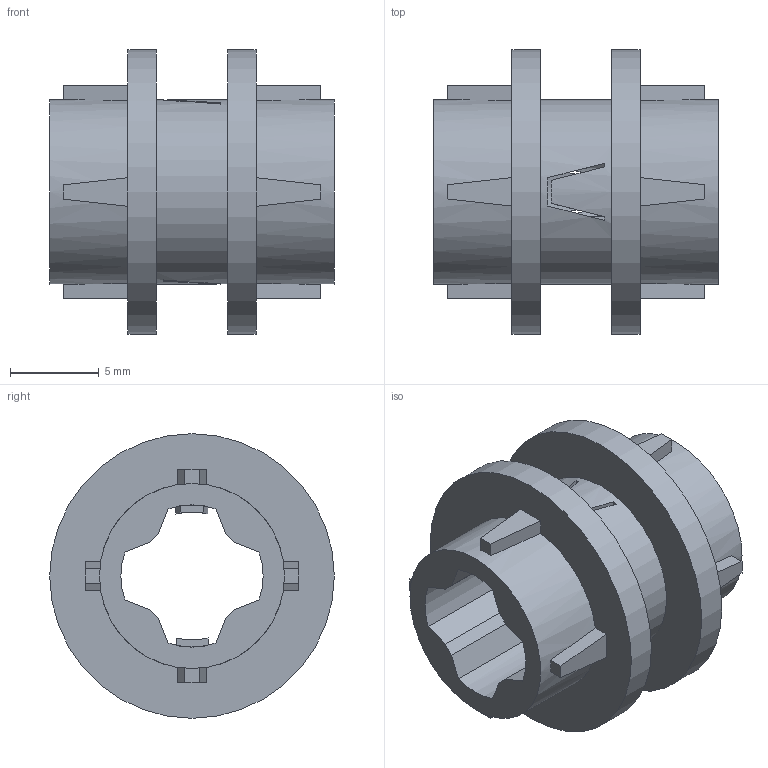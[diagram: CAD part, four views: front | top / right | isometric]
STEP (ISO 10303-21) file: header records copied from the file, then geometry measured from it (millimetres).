
FILE_DESCRIPTION(/* description */ ('Unknown'),/* implementation_level */ '2;1');
FILE_NAME(/* name */ 'Red_4278957_JC',/* time_stamp */ '2025-07-22T00:03:37+02:00',/* author */ ('Unknown'),/* organization */ ('Unknown'),/* preprocessor_version */ 'ST-DEVELOPER v19.4',/* originating_system */ 'Solid Edge',/* authorisation */ 'Unknown');
FILE_SCHEMA (('AUTOMOTIVE_DESIGN {1 0 10303 214 3 1 1}'));
Length unit declared in the file: millimetre
Products named in the file (1): Red_4278957_JC
Bounding box: 16 x 16 x 16 mm (x, y, z)
Volume: 1084.3 mm3; surface area: 1621 mm2
Topology: 1 solids, 1 shells, 81 faces, 234 edges, 156 vertices
Faces by surface type: plane 68, cylinder 13
Full cylindrical faces by diameter (mm): 10.4 x3, 16 x2
Entity records: 2668 total; most frequent: DIRECTION 472, CARTESIAN_POINT 458, ORIENTED_EDGE 448, EDGE_CURVE 224, AXIS2_PLACEMENT_3D 166, VERTEX_POINT 152, LINE 140, VECTOR 140
